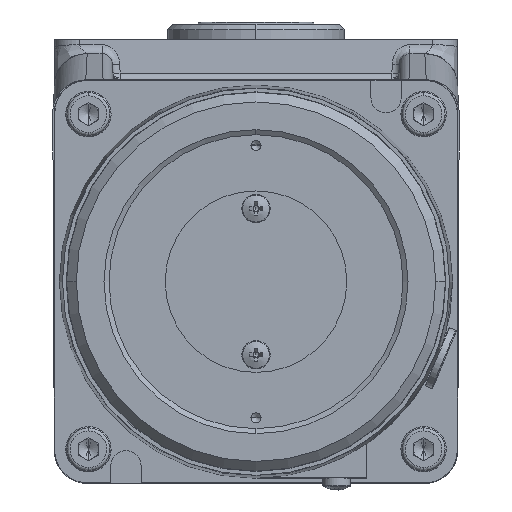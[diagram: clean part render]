
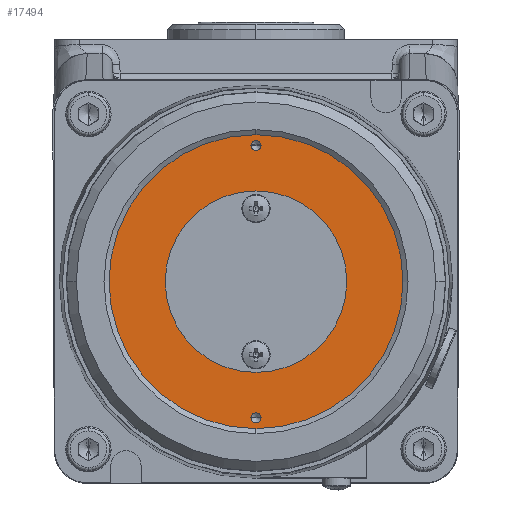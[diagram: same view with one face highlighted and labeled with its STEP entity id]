
A CAD part, front view. The second image highlights one B-rep face of the part: STEP entity #17494.
In plain terms, the highlighted planar face has unit normal (0, -1, 0) as drawn and (0, 1, 0) by its records, which use the part's own axes.
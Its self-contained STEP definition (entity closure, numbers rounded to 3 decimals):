
#399 = AXIS2_PLACEMENT_3D ( 'NONE', #53390, #17216, #59343 ) ;
#768 = CARTESIAN_POINT ( 'NONE',  ( -27., 78.75, 0. ) ) ;
#830 = ORIENTED_EDGE ( 'NONE', *, *, #42567, .T. ) ;
#1919 = AXIS2_PLACEMENT_3D ( 'NONE', #54249, #18063, #60197 ) ;
#2490 = CARTESIAN_POINT ( 'NONE',  ( 0., 78.75, -29.15 ) ) ;
#2896 = CARTESIAN_POINT ( 'NONE',  ( 27., 78.75, -1. ) ) ;
#5435 = CIRCLE ( 'NONE', #50446, 1. ) ;
#5583 = EDGE_LOOP ( 'NONE', ( #6369, #37117 ) ) ;
#6369 = ORIENTED_EDGE ( 'NONE', *, *, #48271, .T. ) ;
#6699 = CARTESIAN_POINT ( 'NONE',  ( 0., 78.75, 29.15 ) ) ;
#6830 = DIRECTION ( 'NONE',  ( 0., 0., 1. ) ) ;
#7074 = FACE_BOUND ( 'NONE', #5583, .T. ) ;
#9377 = FACE_BOUND ( 'NONE', #47644, .T. ) ;
#10868 = EDGE_LOOP ( 'NONE', ( #21091, #65712 ) ) ;
#11841 = FACE_BOUND ( 'NONE', #48654, .T. ) ;
#13595 = FACE_OUTER_BOUND ( 'NONE', #10868, .T. ) ;
#13795 = CIRCLE ( 'NONE', #399, 29.15 ) ;
#14542 = DIRECTION ( 'NONE',  ( 0., -1., 0. ) ) ;
#14949 = PLANE ( 'NONE',  #25716 ) ;
#16591 = VERTEX_POINT ( 'NONE', #22416 ) ;
#17216 = DIRECTION ( 'NONE',  ( 0., -1., 0. ) ) ;
#17494 = ADVANCED_FACE ( 'NONE', ( #7074, #11841, #9377, #13595 ), #14949, .T. ) ;
#18063 = DIRECTION ( 'NONE',  ( 0., -1., 0. ) ) ;
#19171 = AXIS2_PLACEMENT_3D ( 'NONE', #24750, #66913, #30745 ) ;
#20139 = CARTESIAN_POINT ( 'NONE',  ( 0., 78.75, 0. ) ) ;
#20961 = CARTESIAN_POINT ( 'NONE',  ( 0., 78.75, 0. ) ) ;
#21091 = ORIENTED_EDGE ( 'NONE', *, *, #22679, .F. ) ;
#21496 = DIRECTION ( 'NONE',  ( 0., -1., 0. ) ) ;
#22398 = CARTESIAN_POINT ( 'NONE',  ( 27., 78.75, 1. ) ) ;
#22416 = CARTESIAN_POINT ( 'NONE',  ( -27., 78.75, -1. ) ) ;
#22679 = EDGE_CURVE ( 'NONE', #52132, #77114, #50373, .T. ) ;
#23392 = EDGE_CURVE ( 'NONE', #77114, #52132, #13795, .T. ) ;
#24750 = CARTESIAN_POINT ( 'NONE',  ( 27., 78.75, 0. ) ) ;
#24762 = CIRCLE ( 'NONE', #42283, 18. ) ;
#25628 = CARTESIAN_POINT ( 'NONE',  ( -27., 78.75, 0. ) ) ;
#25716 = AXIS2_PLACEMENT_3D ( 'NONE', #20961, #45072, #69057 ) ;
#26090 = DIRECTION ( 'NONE',  ( 0., 0., 1. ) ) ;
#29821 = AXIS2_PLACEMENT_3D ( 'NONE', #50745, #14542, #56704 ) ;
#30540 = CIRCLE ( 'NONE', #29821, 18. ) ;
#30745 = DIRECTION ( 'NONE',  ( 0., 0., 1. ) ) ;
#31627 = DIRECTION ( 'NONE',  ( 0., 0., 1. ) ) ;
#32842 = EDGE_CURVE ( 'NONE', #16591, #76062, #5435, .T. ) ;
#37117 = ORIENTED_EDGE ( 'NONE', *, *, #61979, .T. ) ;
#40979 = EDGE_CURVE ( 'NONE', #56312, #49523, #30540, .T. ) ;
#42283 = AXIS2_PLACEMENT_3D ( 'NONE', #20139, #62276, #26090 ) ;
#42567 = EDGE_CURVE ( 'NONE', #76062, #16591, #65732, .T. ) ;
#42935 = DIRECTION ( 'NONE',  ( 0., -1., 0. ) ) ;
#43366 = ORIENTED_EDGE ( 'NONE', *, *, #40979, .T. ) ;
#44442 = AXIS2_PLACEMENT_3D ( 'NONE', #768, #42935, #6830 ) ;
#44487 = CARTESIAN_POINT ( 'NONE',  ( -27., 78.75, 1. ) ) ;
#45072 = DIRECTION ( 'NONE',  ( 0., 1., 0. ) ) ;
#47644 = EDGE_LOOP ( 'NONE', ( #61392, #43366 ) ) ;
#48271 = EDGE_CURVE ( 'NONE', #70437, #62794, #51751, .T. ) ;
#48654 = EDGE_LOOP ( 'NONE', ( #830, #62930 ) ) ;
#49523 = VERTEX_POINT ( 'NONE', #57972 ) ;
#50023 = EDGE_CURVE ( 'NONE', #49523, #56312, #24762, .T. ) ;
#50373 = CIRCLE ( 'NONE', #1919, 29.15 ) ;
#50446 = AXIS2_PLACEMENT_3D ( 'NONE', #25628, #67801, #31627 ) ;
#50745 = CARTESIAN_POINT ( 'NONE',  ( 0., 78.75, 0. ) ) ;
#50790 = AXIS2_PLACEMENT_3D ( 'NONE', #57644, #21496, #63628 ) ;
#51751 = CIRCLE ( 'NONE', #50790, 1. ) ;
#52132 = VERTEX_POINT ( 'NONE', #2490 ) ;
#53390 = CARTESIAN_POINT ( 'NONE',  ( 0., 78.75, 0. ) ) ;
#54249 = CARTESIAN_POINT ( 'NONE',  ( 0., 78.75, 0. ) ) ;
#56312 = VERTEX_POINT ( 'NONE', #58007 ) ;
#56704 = DIRECTION ( 'NONE',  ( 0., 0., 1. ) ) ;
#57644 = CARTESIAN_POINT ( 'NONE',  ( 27., 78.75, 0. ) ) ;
#57972 = CARTESIAN_POINT ( 'NONE',  ( 0., 78.75, 18. ) ) ;
#58007 = CARTESIAN_POINT ( 'NONE',  ( 0., 78.75, -18. ) ) ;
#59343 = DIRECTION ( 'NONE',  ( 0., 0., -1. ) ) ;
#60197 = DIRECTION ( 'NONE',  ( 0., 0., -1. ) ) ;
#61392 = ORIENTED_EDGE ( 'NONE', *, *, #50023, .T. ) ;
#61979 = EDGE_CURVE ( 'NONE', #62794, #70437, #76748, .T. ) ;
#62276 = DIRECTION ( 'NONE',  ( 0., -1., 0. ) ) ;
#62794 = VERTEX_POINT ( 'NONE', #2896 ) ;
#62930 = ORIENTED_EDGE ( 'NONE', *, *, #32842, .T. ) ;
#63628 = DIRECTION ( 'NONE',  ( 0., 0., 1. ) ) ;
#65712 = ORIENTED_EDGE ( 'NONE', *, *, #23392, .F. ) ;
#65732 = CIRCLE ( 'NONE', #44442, 1. ) ;
#66913 = DIRECTION ( 'NONE',  ( 0., -1., 0. ) ) ;
#67801 = DIRECTION ( 'NONE',  ( 0., -1., 0. ) ) ;
#69057 = DIRECTION ( 'NONE',  ( 0., 0., 1. ) ) ;
#70437 = VERTEX_POINT ( 'NONE', #22398 ) ;
#76062 = VERTEX_POINT ( 'NONE', #44487 ) ;
#76748 = CIRCLE ( 'NONE', #19171, 1. ) ;
#77114 = VERTEX_POINT ( 'NONE', #6699 ) ;
